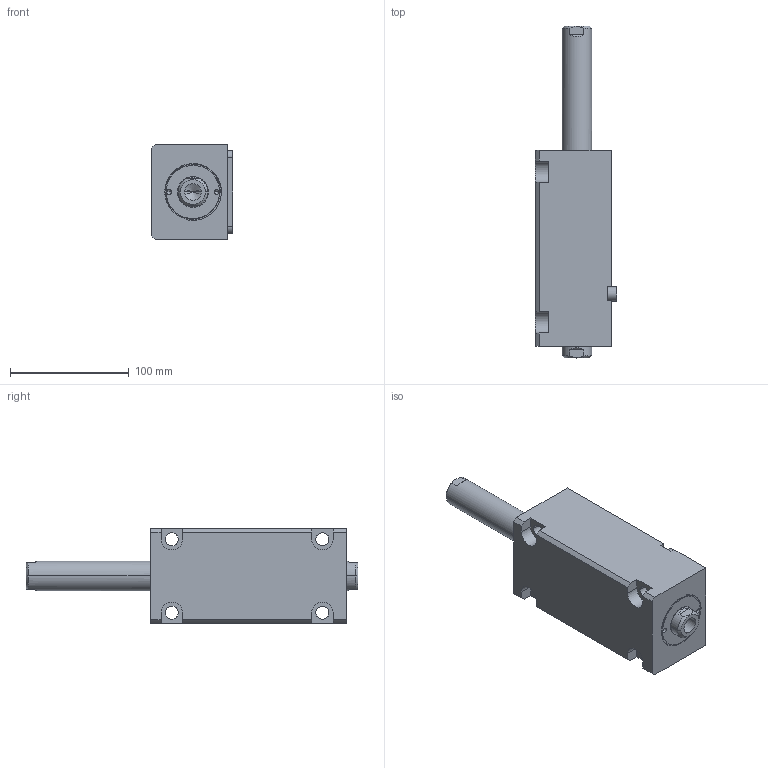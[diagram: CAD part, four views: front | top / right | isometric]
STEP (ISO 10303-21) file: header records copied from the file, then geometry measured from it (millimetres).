
FILE_DESCRIPTION (( 'STEP AP214' ), '1' );
FILE_NAME ('chtb-lwm40x95n_asm.STEP', '2018-05-30T08:26:58', ( 'Windows' ), ( 'Microsoft' ), 'SwSTEP 2.0', 'SolidWorks 2015', '' );
FILE_SCHEMA (( 'AUTOMOTIVE_DESIGN' ));
Length unit declared in the file: millimetre
Products named in the file (5): CHTB-LWM40X95NBT; CHTB-LA40PJ; chtb-lwm40x95n_asm; CHTB-SD40QG; CHTB-SW40X95NHSG
Assembly tree (4 placements, depth 2):
  chtb-lwm40x95n_asm
    CHTB-LA40PJ
    CHTB-LWM40X95NBT
    CHTB-SW40X95NHSG
    CHTB-SD40QG
Bounding box: 68.5 x 280 x 80 mm (x, y, z)
Volume: 786848.3 mm3; surface area: 125544.3 mm2
Topology: 4 solids, 4 shells, 166 faces, 450 edges, 296 vertices
Faces by surface type: cylinder 77, plane 50, bspline 14, cone 13, torus 12
Entity records: 10488 total; most frequent: CARTESIAN_POINT 6156, ORIENTED_EDGE 880, DIRECTION 821, EDGE_CURVE 440, AXIS2_PLACEMENT_3D 326, VERTEX_POINT 296, EDGE_LOOP 196, VECTOR 169
